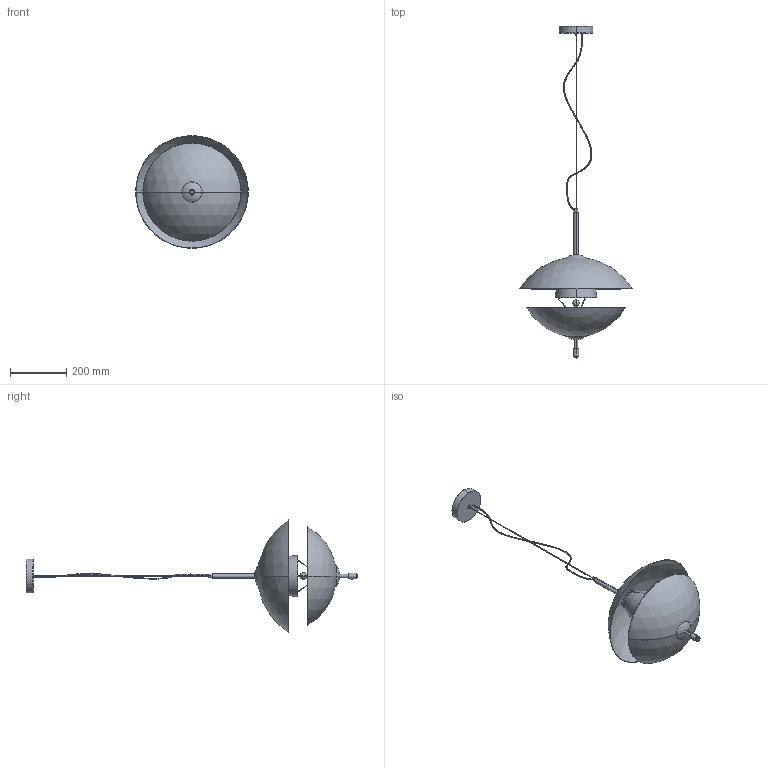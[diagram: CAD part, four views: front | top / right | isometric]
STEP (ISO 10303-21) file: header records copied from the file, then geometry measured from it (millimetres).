
FILE_DESCRIPTION (( 'STEP AP203' ), '1' );
FILE_NAME ('Miller Shell Pendant Light.STEP', '2025-12-04T07:16:03', ( '' ), ( '' ), 'SwSTEP 2.0', 'SolidWorks 2022', '' );
FILE_SCHEMA (( 'CONFIG_CONTROL_DESIGN' ));
Length unit declared in the file: millimetre
Products named in the file (1): Miller Shell Pendant Light
Bounding box: 400 x 1177.45 x 400 mm (x, y, z)
Volume: 632294.7 mm3; surface area: 812563.4 mm2
Topology: 28 solids, 28 shells, 176 faces, 333 edges, 215 vertices
Faces by surface type: cylinder 86, plane 54, sphere 18, torus 10, cone 6, bspline 2
Entity records: 5343 total; most frequent: CARTESIAN_POINT 1599, DIRECTION 874, ORIENTED_EDGE 656, AXIS2_PLACEMENT_3D 391, EDGE_CURVE 328, CIRCLE 216, VERTEX_POINT 212, EDGE_LOOP 198
